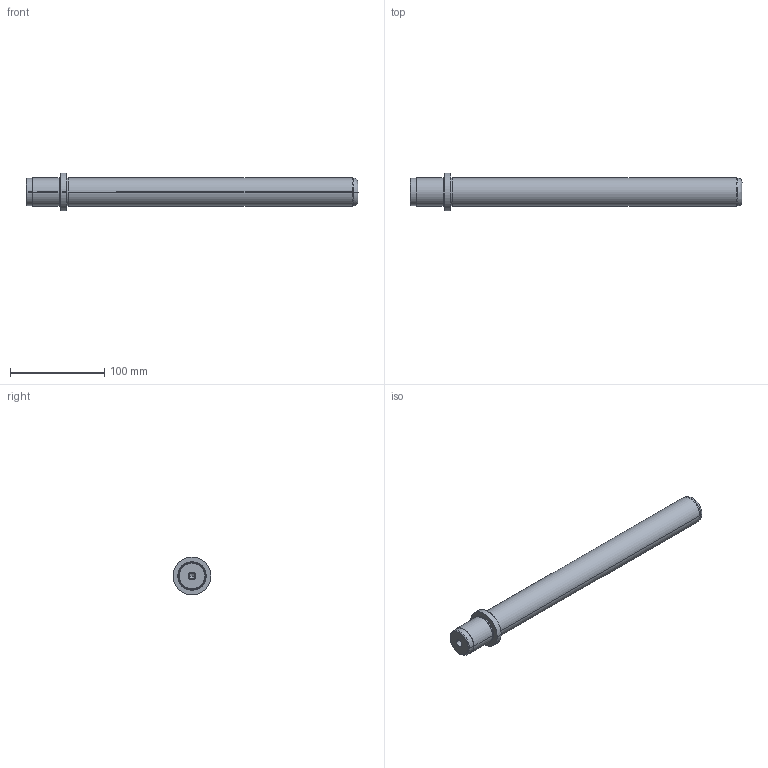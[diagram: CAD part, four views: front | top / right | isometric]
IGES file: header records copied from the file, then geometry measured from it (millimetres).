
Start section: SolidWorks IGES FILE using analytic representation for surfaces
Global section: file name: D:\zzzzz\Delta\D06\30\D06 - 30x315x37.IGS; native system: SolidWorks 2004 by SolidWorks Corporation; preprocessor: Version 5.3; author: Hkn; date: 080327.150805; units: millimetre
Bounding box: 352 x 40 x 40 mm (x, y, z)
Surface area: 36930.8 mm2 (no closed solid volume)
Topology: 0 solids, 0 shells, 39 faces, 1016 edges, 1012 vertices
Faces by surface type: revolution 28, bspline 11
